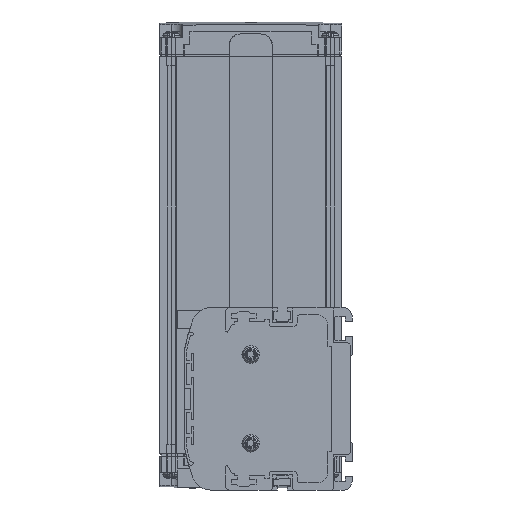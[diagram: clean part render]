
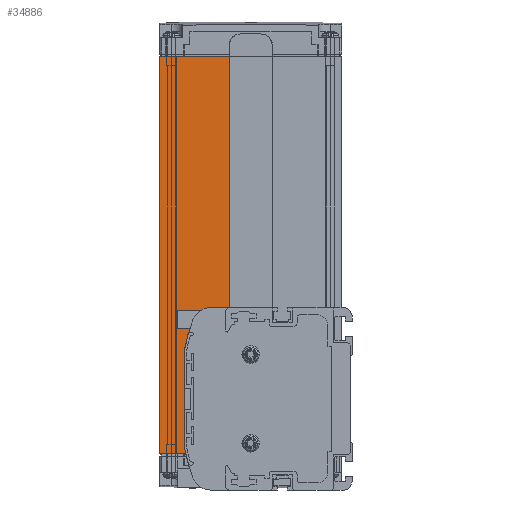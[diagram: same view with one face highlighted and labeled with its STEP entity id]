
A CAD part, left-side view. The second image highlights one B-rep face of the part: STEP entity #34886.
In plain terms, the highlighted planar face has unit normal (-1, 0, 0).
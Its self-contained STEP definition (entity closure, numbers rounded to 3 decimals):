
#9124=DIRECTION('',(0.,-1.,0.));
#9125=VECTOR('',#9124,11.203);
#9126=CARTESIAN_POINT('',(3.,82.5,-23.5));
#9127=LINE('',#9126,#9125);
#9128=DIRECTION('',(0.,0.,-1.));
#9129=VECTOR('',#9128,170.);
#9130=CARTESIAN_POINT('',(3.,82.5,146.5));
#9131=LINE('',#9130,#9129);
#9132=DIRECTION('',(0.,1.,0.));
#9133=VECTOR('',#9132,29.9);
#9134=CARTESIAN_POINT('',(3.,52.6,146.5));
#9135=LINE('',#9134,#9133);
#9136=DIRECTION('',(0.,-1.,0.));
#9137=VECTOR('',#9136,8.155);
#9138=CARTESIAN_POINT('',(3.,60.755,39.));
#9139=LINE('',#9138,#9137);
#12139=CARTESIAN_POINT('',(3.,-6.765,-6.));
#12140=DIRECTION('',(1.,0.,0.));
#12141=DIRECTION('',(0.,0.976,-0.219));
#12142=AXIS2_PLACEMENT_3D('',#12139,#12140,#12141);
#12148=CARTESIAN_POINT('',(3.,70.,-19.823));
#12149=DIRECTION('',(-1.,0.,0.));
#12150=DIRECTION('',(0.,1.,0.));
#12151=AXIS2_PLACEMENT_3D('',#12148,#12149,#12150);
#12161=DIRECTION('',(0.,0.,1.));
#12162=VECTOR('',#12161,39.645);
#12163=CARTESIAN_POINT('',(3.,72.,-19.823));
#12164=LINE('',#12163,#12162);
#12169=CARTESIAN_POINT('',(3.,70.,19.823));
#12170=DIRECTION('',(1.,0.,0.));
#12171=DIRECTION('',(0.,1.,0.));
#12172=AXIS2_PLACEMENT_3D('',#12169,#12170,#12171);
#12178=CARTESIAN_POINT('',(3.,-6.765,6.));
#12179=DIRECTION('',(1.,0.,0.));
#12180=DIRECTION('',(0.,0.984,0.177));
#12181=AXIS2_PLACEMENT_3D('',#12178,#12179,#12180);
#12183=CARTESIAN_POINT('',(3.,-6.765,6.));
#12184=DIRECTION('',(1.,0.,0.));
#12185=DIRECTION('',(0.,0.963,0.269));
#12186=AXIS2_PLACEMENT_3D('',#12183,#12184,#12185);
#12192=CARTESIAN_POINT('',(3.,60.755,31.));
#12193=DIRECTION('',(-1.,0.,0.));
#12194=DIRECTION('',(0.,0.,1.));
#12195=AXIS2_PLACEMENT_3D('',#12192,#12193,#12194);
#12586=DIRECTION('',(0.,-1.,0.));
#12587=VECTOR('',#12586,0.209);
#12588=CARTESIAN_POINT('',(3.,70.5,27.5));
#12589=LINE('',#12588,#12587);
#12610=DIRECTION('',(0.,0.,1.));
#12611=VECTOR('',#12610,0.762);
#12612=CARTESIAN_POINT('',(3.,70.5,26.738));
#12613=LINE('',#12612,#12611);
#12618=DIRECTION('',(0.,0.,1.));
#12619=VECTOR('',#12618,107.5);
#12620=CARTESIAN_POINT('',(3.,52.6,39.));
#12621=LINE('',#12620,#12619);
#18269=CARTESIAN_POINT('',(3.,82.5,-23.5));
#18271=VERTEX_POINT('',#18269);
#18366=CARTESIAN_POINT('',(3.,52.6,146.5));
#18367=VERTEX_POINT('',#18366);
#18368=CARTESIAN_POINT('',(3.,82.5,146.5));
#18369=VERTEX_POINT('',#18368);
#18402=CARTESIAN_POINT('',(3.,70.5,27.5));
#18403=VERTEX_POINT('',#18402);
#22587=CARTESIAN_POINT('',(3.,60.755,39.));
#22588=CARTESIAN_POINT('',(3.,52.6,39.));
#22589=VERTEX_POINT('',#22587);
#22590=VERTEX_POINT('',#22588);
#22591=CARTESIAN_POINT('',(3.,71.297,-23.5));
#22593=VERTEX_POINT('',#22591);
#22603=CARTESIAN_POINT('',(3.,70.5,26.738));
#22604=VERTEX_POINT('',#22603);
#22608=CARTESIAN_POINT('',(3.,70.291,27.5));
#22610=VERTEX_POINT('',#22608);
#22617=CARTESIAN_POINT('',(3.,72.,19.823));
#22618=CARTESIAN_POINT('',(3.,71.968,20.177));
#22619=VERTEX_POINT('',#22617);
#22620=VERTEX_POINT('',#22618);
#22621=CARTESIAN_POINT('',(3.,68.257,33.778));
#22622=VERTEX_POINT('',#22621);
#22635=CARTESIAN_POINT('',(3.,71.968,-20.177));
#22636=VERTEX_POINT('',#22635);
#22637=CARTESIAN_POINT('',(3.,72.,-19.823));
#22638=VERTEX_POINT('',#22637);
#34854=CARTESIAN_POINT('',(3.,67.55,61.5));
#34855=DIRECTION('',(1.,0.,0.));
#34856=DIRECTION('',(0.,-1.,0.));
#34857=AXIS2_PLACEMENT_3D('',#34854,#34855,#34856);
#34858=PLANE('',#34857);
#34860=ORIENTED_EDGE('',*,*,#34859,.F.);
#34862=ORIENTED_EDGE('',*,*,#34861,.T.);
#34864=ORIENTED_EDGE('',*,*,#34863,.F.);
#34866=ORIENTED_EDGE('',*,*,#34865,.F.);
#34868=ORIENTED_EDGE('',*,*,#34867,.F.);
#34870=ORIENTED_EDGE('',*,*,#34869,.F.);
#34872=ORIENTED_EDGE('',*,*,#34871,.F.);
#34874=ORIENTED_EDGE('',*,*,#34873,.F.);
#34876=ORIENTED_EDGE('',*,*,#34875,.T.);
#34878=ORIENTED_EDGE('',*,*,#34877,.F.);
#34879=ORIENTED_EDGE('',*,*,#29622,.F.);
#34880=ORIENTED_EDGE('',*,*,#34842,.F.);
#34881=ORIENTED_EDGE('',*,*,#23196,.F.);
#34883=ORIENTED_EDGE('',*,*,#34882,.F.);
#34884=EDGE_LOOP('',(#34860,#34862,#34864,#34866,#34868,#34870,#34872,#34874,
#34876,#34878,#34879,#34880,#34881,#34883));
#34885=FACE_OUTER_BOUND('',#34884,.F.);
#34886=ADVANCED_FACE('',(#34885),#34858,.F.);
#12143=CIRCLE('',#12142,80.);
#12152=CIRCLE('',#12151,2.);
#12173=CIRCLE('',#12172,2.);
#12182=CIRCLE('',#12181,80.);
#12187=CIRCLE('',#12186,80.);
#12196=CIRCLE('',#12195,8.);
#23196=EDGE_CURVE('',#18367,#18369,#9135,.T.);
#29622=EDGE_CURVE('',#18271,#22593,#9127,.T.);
#34842=EDGE_CURVE('',#18369,#18271,#9131,.T.);
#34859=EDGE_CURVE('',#22589,#22590,#9139,.T.);
#34861=EDGE_CURVE('',#22589,#22622,#12196,.T.);
#34863=EDGE_CURVE('',#22610,#22622,#12187,.T.);
#34865=EDGE_CURVE('',#18403,#22610,#12589,.T.);
#34867=EDGE_CURVE('',#22604,#18403,#12613,.T.);
#34869=EDGE_CURVE('',#22620,#22604,#12182,.T.);
#34871=EDGE_CURVE('',#22619,#22620,#12173,.T.);
#34873=EDGE_CURVE('',#22638,#22619,#12164,.T.);
#34875=EDGE_CURVE('',#22638,#22636,#12152,.T.);
#34877=EDGE_CURVE('',#22593,#22636,#12143,.T.);
#34882=EDGE_CURVE('',#22590,#18367,#12621,.T.);
